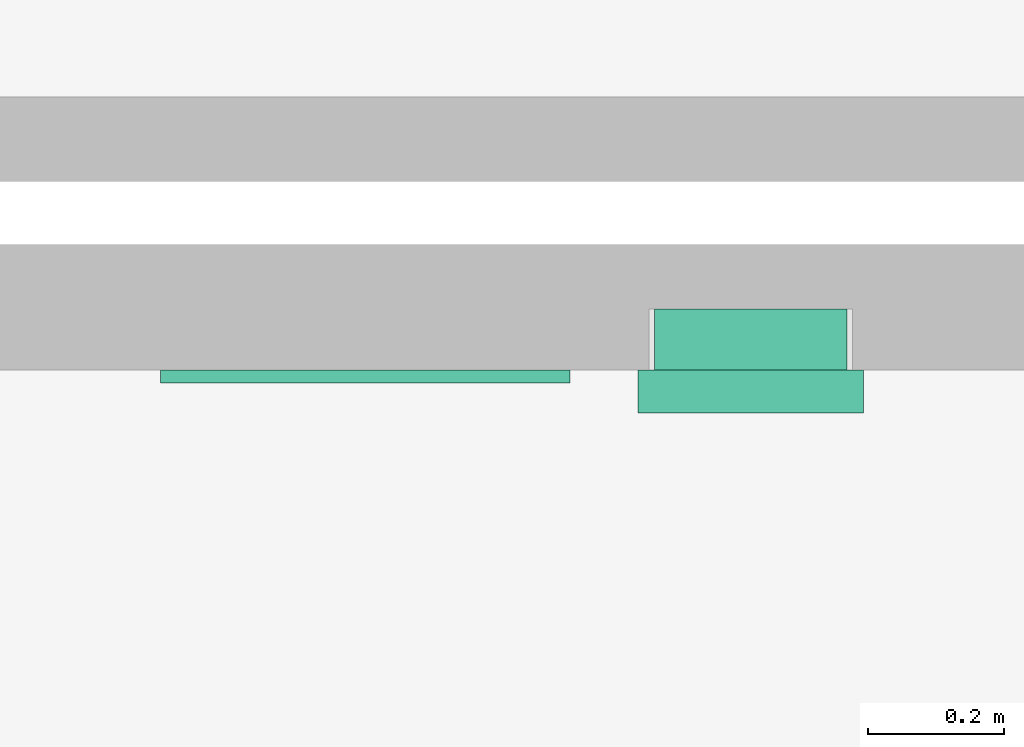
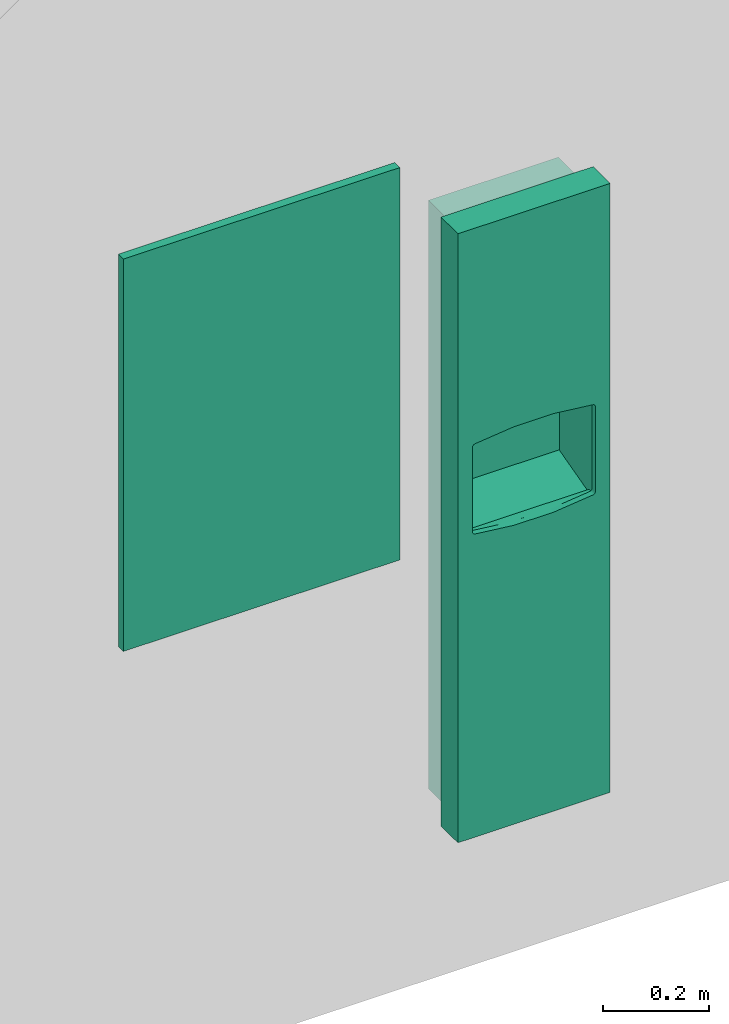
# One storey, part 60 of 87: 2 flow terminals.
"""IFC2X3 building model written with IfcOpenShell, lengths in metres."""

from ifc_helpers import new_model, entity, si_unit, converted_unit, frame, origin, origin_2d_with_axis, place, context, project, spatial, rectangle, extrude, face_set, surface_model, source, transform, mapped, type_object, type_shapes, element, save


model = new_model("IFC2X3")

# Units and contexts
model_context = context("Model", 3, precision=1e-09, world=origin())
plan_context = context("Plan", 3, precision=1e-09, world=origin())
ifc_project = project(units=[si_unit("LENGTHUNIT", "METRE"), si_unit("AREAUNIT", "SQUARE_METRE"), si_unit("VOLUMEUNIT", "CUBIC_METRE"), converted_unit("PLANEANGLEUNIT", "DEGREE", entity("IfcRatioMeasure", 0.01745329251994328), si_unit("PLANEANGLEUNIT", "RADIAN"), dimensions=[0, 0, 0, 0, 0, 0, 0]), si_unit("TIMEUNIT", "SECOND")], contexts=[model_context, plan_context])

# Site, building, storey, space
site_placement = place(None, origin())
site = spatial("IfcSite", under=ifc_project, at=site_placement, Name="Default", CompositionType="ELEMENT")
building_placement = place(site_placement, origin())
building = spatial("IfcBuilding", under=site, at=building_placement, CompositionType="ELEMENT")
storey_placement = place(building_placement, origin())
storey = spatial("IfcBuildingStorey", under=building, at=storey_placement, Name="First Floor", CompositionType="ELEMENT", Elevation=-3.531500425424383e-13)
space_placement = place(storey_placement, origin())
space = spatial("IfcSpace", under=storey, at=space_placement, Name="1D26", CompositionType="ELEMENT", InteriorOrExteriorSpace="INTERNAL")

# Flow terminals
sanitary_terminal_type_1 = type_object("IfcSanitaryTerminalType", Name="Mirror 600mm x 900mm", PredefinedType="NOTDEFINED")
shared_shape_1 = source(origin(), model_context, "Body", "SweptSolid", [
    extrude(rectangle(XDim=0.01905, YDim=0.5999999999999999, at=origin_2d_with_axis()), frame((0.02447030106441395, 0.101525, 1.0), z_axis=(0.0, 0.0, 1.0), x_axis=(0.0, -1.0, 0.0)), (0.0, 0.0, 1.0), 0.8999999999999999),
])
type_shapes(sanitary_terminal_type_1, [shared_shape_1])
flow_terminal_1_placement = place(space_placement, frame((-41.73972969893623, 24.35199999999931, 0.0), z_axis=(0.0, 0.0, 1.0), x_axis=(-1.0, 0.0, 0.0)))
element("IfcFlowTerminal", 1, at=flow_terminal_1_placement, inside=space, type_object=sanitary_terminal_type_1, Name="M_Mirror:Mirror 600mm x 900mm:Mirror 600mm x 900mm", ObjectType="Mirror 600mm x 900mm", context=model_context, shape_type="MappedRepresentation", body=[
    mapped(shared_shape_1, transform((0.0, 0.0, 0.0), scale=1.0)),
])
sanitary_terminal_type_2 = type_object("IfcSanitaryTerminalType", Name="Semi-Recessed", PredefinedType="NOTDEFINED")
shared_shape_2 = source(origin(), model_context, "Body", "SurfaceModel", [
    surface_model("IfcFaceBasedSurfaceModel", [(0.3047999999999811, 1.371600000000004, 0.006350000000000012), (0.02539999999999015, 1.371600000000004, 0.006350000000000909), (0.02539999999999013, 0.02540000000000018, 0.006350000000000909), (0.3047999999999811, 0.02540000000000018, 0.006350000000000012), (0.3047999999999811, 1.371600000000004, 0.0), (0.02539999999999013, 1.371600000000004, 0.0), (0.02539999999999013, 0.02540000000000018, 0.0), (0.3047999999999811, 0.02540000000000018, 0.0), (0.3047999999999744, 0.8683625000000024, 0.0314087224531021), (0.304799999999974, 0.8683625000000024, 0.0), (0.304799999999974, 1.371600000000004, 0.0), (0.3047999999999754, 1.371600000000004, 0.1396999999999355), (0.3047999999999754, 0.9274310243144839, 0.139699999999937), (0.3047999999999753, 0.9028355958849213, 0.1191121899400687), (0.304799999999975, 0.8840898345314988, 0.09308548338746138), (0.3047999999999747, 0.8723562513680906, 0.06323391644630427), (0.02539999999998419, 0.8683625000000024, 0.03140872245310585), (0.02539999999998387, 0.8683625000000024, 0.0), (0.02539999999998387, 1.371600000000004, 0.0), (0.02539999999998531, 1.371600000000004, 0.1396999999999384), (0.02539999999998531, 0.9274310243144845, 0.1396999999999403), (0.02539999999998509, 0.9028355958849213, 0.1191121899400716), (0.02539999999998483, 0.8840898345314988, 0.09308548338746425), (0.02539999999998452, 0.8723562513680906, 0.06323391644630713), (0.1650999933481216, 0.8971245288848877, 0.1125374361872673), (0.244423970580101, 0.8850007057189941, 0.0947267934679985), (0.3048000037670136, 0.8934627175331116, 0.1060988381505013), (0.225727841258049, 0.8897196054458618, 0.1024402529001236), (0.1240624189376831, 0.8936511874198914, 0.1080563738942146), (0.1443802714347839, 0.89626145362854, 0.1114614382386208), (0.02539999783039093, 0.8934627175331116, 0.1060988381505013), (0.2975995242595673, 0.8728225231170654, 0.06500939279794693), (0.2961554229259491, 0.8724397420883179, 0.06352298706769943), (0.08576729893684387, 0.8849983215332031, 0.09472260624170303), (0.05923719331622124, 0.8781034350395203, 0.0805450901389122), (0.06810294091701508, 0.8800443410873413, 0.08500713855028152), (0.02539999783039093, 0.8811564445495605, 0.08562259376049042), (0.03954862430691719, 0.8766331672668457, 0.07681932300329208), (0.04958875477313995, 0.8769928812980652, 0.07776296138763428), (0.02539999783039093, 0.8782230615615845, 0.07815969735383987), (0.03264534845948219, 0.875198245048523, 0.07281118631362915), (0.02539999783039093, 0.8767563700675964, 0.0744282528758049), (0.02539999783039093, 0.87602299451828, 0.07256253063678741), (0.2946777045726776, 0.8762261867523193, 0.07572414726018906), (0.3048000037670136, 0.8767563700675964, 0.0744282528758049), (0.3048000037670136, 0.8774896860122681, 0.07629397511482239), (0.2906513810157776, 0.8717893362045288, 0.0609215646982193), (0.3048000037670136, 0.871357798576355, 0.05527761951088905), (0.3048000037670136, 0.8718570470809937, 0.05925576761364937), (0.02539999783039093, 0.874556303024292, 0.06883108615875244), (0.03170676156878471, 0.8735430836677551, 0.0675705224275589), (0.03171554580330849, 0.8739543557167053, 0.06892137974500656), (0.104461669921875, 0.889717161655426, 0.1024366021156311), (0.02539999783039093, 0.8752896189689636, 0.07069680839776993), (0.03172433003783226, 0.8743656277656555, 0.07027223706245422), (0.03218483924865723, 0.8747819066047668, 0.07154171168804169), (0.185808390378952, 0.8962624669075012, 0.1114626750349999), (0.3048000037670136, 0.8703593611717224, 0.04732131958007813), (0.2280749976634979, 0.8709259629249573, 0.05697767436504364), (0.2061262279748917, 0.8936530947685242, 0.1080589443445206), (0.3048000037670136, 0.8752896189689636, 0.07069680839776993), (0.297547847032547, 0.8752022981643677, 0.07282306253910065), (0.2980738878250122, 0.8745774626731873, 0.0708826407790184), (0.2985999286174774, 0.8739525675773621, 0.06894221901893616), (0.3048000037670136, 0.874556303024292, 0.06883108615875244), (0.2709419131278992, 0.8781068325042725, 0.08055329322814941), (0.3048000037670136, 0.8811564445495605, 0.08562259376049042), (0.2620970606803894, 0.8800443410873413, 0.08500713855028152), (0.2805894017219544, 0.8769944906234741, 0.07776710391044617), (0.3048000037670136, 0.8782230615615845, 0.07815969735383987), (0.03435983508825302, 0.8722586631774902, 0.06284872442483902), (0.02539999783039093, 0.872106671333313, 0.06124484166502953), (0.0367727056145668, 0.8719081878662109, 0.06142202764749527), (0.2906513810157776, 0.8766331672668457, 0.07681932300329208), (0.02539999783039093, 0.8718570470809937, 0.05925576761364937), (0.3048000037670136, 0.8738229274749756, 0.06696536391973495), (0.2980997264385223, 0.8733875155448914, 0.06697580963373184), (0.3048000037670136, 0.872106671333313, 0.06124484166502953), (0.2947112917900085, 0.8720570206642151, 0.06203658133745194), (0.02539999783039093, 0.8738229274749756, 0.06696536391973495), (0.3048000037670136, 0.873089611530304, 0.06509964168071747), (0.02539999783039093, 0.8774896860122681, 0.07629397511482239), (0.03438528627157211, 0.8759323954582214, 0.07491400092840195), (0.03677724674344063, 0.8764464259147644, 0.07632055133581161), (0.03261014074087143, 0.8728178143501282, 0.0649920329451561), (0.02539999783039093, 0.8703593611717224, 0.04732131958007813), (0.1650999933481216, 0.8683624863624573, 0.03140872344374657), (0.03954862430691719, 0.8717893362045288, 0.0609215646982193), (0.1021250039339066, 0.8709259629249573, 0.05697767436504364), (0.02539999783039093, 0.871357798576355, 0.05527761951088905), (0.02539999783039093, 0.873089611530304, 0.06509964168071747), (0.2961127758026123, 0.8757142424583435, 0.07427360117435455), (0.3048000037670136, 0.87602299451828, 0.07256253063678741), (0.1650999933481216, 0.8701865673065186, 0.05300865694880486), (0.03954862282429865, 0.9617593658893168, 0.06092156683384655), (0.1650999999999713, 0.9617593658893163, 0.05300865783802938), (0.2906513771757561, 0.9617593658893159, 0.06092156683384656), (0.2927086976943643, 0.9617593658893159, 0.06119241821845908), (0.2946258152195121, 0.9617593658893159, 0.06198651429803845), (0.2962720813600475, 0.9617593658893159, 0.06324973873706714), (0.2975353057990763, 0.9617593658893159, 0.06489600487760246), (0.2983294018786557, 0.9617593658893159, 0.06681312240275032), (0.2986002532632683, 0.9617593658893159, 0.06887044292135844), (0.2983294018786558, 0.9617593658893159, 0.07092776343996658), (0.2975353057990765, 0.9617593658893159, 0.0728448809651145), (0.2962720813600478, 0.9617593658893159, 0.07449114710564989), (0.2946258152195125, 0.9617593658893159, 0.07575437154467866), (0.2927086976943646, 0.9617593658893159, 0.07654846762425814), (0.2906513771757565, 0.9617593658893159, 0.07681931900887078), (0.2806776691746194, 0.9617593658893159, 0.07775040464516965), (0.2710486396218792, 0.9617593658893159, 0.0805114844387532), (0.2620970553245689, 0.9617593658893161, 0.0850071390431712), (0.2316919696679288, 0.9617593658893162, 0.1002429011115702), (0.1989754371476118, 0.9617593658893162, 0.1095287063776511), (0.1651000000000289, 0.9617593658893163, 0.1125374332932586), (0.1312245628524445, 0.9617593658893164, 0.109528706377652), (0.09850803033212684, 0.9617593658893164, 0.1002429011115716), (0.06810294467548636, 0.9617593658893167, 0.08500713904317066), (0.05915136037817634, 0.9617593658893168, 0.08051148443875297), (0.04952233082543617, 0.9617593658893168, 0.07775040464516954), (0.03954862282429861, 0.9617593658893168, 0.07681931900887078), (0.03749130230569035, 0.9617593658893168, 0.0765484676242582), (0.03557418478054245, 0.9617593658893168, 0.07575437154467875), (0.03392791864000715, 0.9617593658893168, 0.07449114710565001), (0.03266469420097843, 0.9617593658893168, 0.07284488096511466), (0.03187059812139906, 0.9617593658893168, 0.07092776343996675), (0.03159974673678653, 0.9617593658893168, 0.06887044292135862), (0.03187059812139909, 0.9617593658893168, 0.06681312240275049), (0.03266469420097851, 0.9617593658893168, 0.0648960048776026), (0.03392791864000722, 0.9617593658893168, 0.06324973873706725), (0.03557418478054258, 0.9617593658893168, 0.06198651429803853), (0.03749130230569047, 0.9617593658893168, 0.06119241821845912), (0.3302000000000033, 1.397000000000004, 0.1523999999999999), (0.0, 1.397000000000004, 0.152400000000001), (0.0, 0.0, 0.152400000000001), (0.3302000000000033, 0.0, 0.1523999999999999), (0.03175000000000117, 0.7016793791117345, 0.1524000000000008), (0.03175000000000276, 0.8960819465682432, 0.1524000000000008), (0.03192255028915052, 0.8975521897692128, 0.1524000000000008), (0.03243082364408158, 0.8989425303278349, 0.1524000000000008), (0.03324719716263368, 0.9001774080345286, 0.1524000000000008), (0.03432730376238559, 0.9011897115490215, 0.1524000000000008), (0.03561244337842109, 0.9019244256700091, 0.1524000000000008), (0.03703277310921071, 0.9023416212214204, 0.1524000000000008), (0.1222300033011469, 0.9119737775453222, 0.1524000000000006), (0.2079699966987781, 0.911973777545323, 0.1524000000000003), (0.2931672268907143, 0.902341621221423, 0.1524), (0.2945875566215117, 0.9019244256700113, 0.1524), (0.2958726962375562, 0.9011897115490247, 0.1524), (0.2969528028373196, 0.9001774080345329, 0.1524), (0.297769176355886, 0.8989425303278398, 0.1524), (0.2982774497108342, 0.8975521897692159, 0.1524), (0.2984500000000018, 0.8960819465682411, 0.1524), (0.2984500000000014, 0.7016793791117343, 0.1524), (0.2982774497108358, 0.7002091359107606, 0.1524), (0.2977691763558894, 0.6988187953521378, 0.1524), (0.2969528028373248, 0.697583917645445, 0.1524), (0.2958726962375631, 0.6965716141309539, 0.1524), (0.29458755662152, 0.6958369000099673, 0.1524), (0.2931672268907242, 0.6954197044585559, 0.1524), (0.2079699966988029, 0.6857875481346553, 0.1524000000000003), (0.1222300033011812, 0.6857875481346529, 0.1524000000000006), (0.03703277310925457, 0.6954197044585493, 0.1524000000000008), (0.03561244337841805, 0.6958369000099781, 0.1524000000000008), (0.0343273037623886, 0.6965716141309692, 0.1524000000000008), (0.03324719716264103, 0.6975839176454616, 0.1524000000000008), (0.03243082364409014, 0.698818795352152, 0.1524000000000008), (0.03192255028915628, 0.7002091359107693, 0.1524000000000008), (0.3063874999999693, 1.373187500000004, 0.0), (0.02381249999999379, 1.373187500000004, 0.0), (0.02381249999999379, 0.02381250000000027, 0.0), (0.3063874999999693, 0.02381250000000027, 0.0), (0.3047999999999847, 1.371600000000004, 0.0), (0.3047999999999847, 0.02540000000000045, 0.0), (0.02539999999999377, 0.02540000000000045, 0.0), (0.02539999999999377, 1.371600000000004, 0.0), (0.304799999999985, 1.371600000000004, 0.08889999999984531), (0.3047999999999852, 1.371600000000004, 0.1396999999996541), (0.3047999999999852, 0.02540000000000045, 0.1396999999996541), (0.304799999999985, 0.02540000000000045, 0.08889999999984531), (0.02539999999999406, 0.02540000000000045, 0.08889999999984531), (0.02539999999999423, 0.02540000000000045, 0.139699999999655), (0.02539999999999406, 1.371600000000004, 0.08889999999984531), (0.02539999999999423, 1.371600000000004, 0.139699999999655), (0.02381249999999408, 1.373187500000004, 0.08889999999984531), (0.3063874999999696, 1.373187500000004, 0.08889999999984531), (0.02381249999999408, 0.02381250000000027, 0.08889999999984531), (0.3063874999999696, 0.02381250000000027, 0.08889999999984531), (0.3302000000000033, 1.397000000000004, 0.08889999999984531), (0.0, 1.397000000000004, 0.08889999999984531), (0.0, 0.0, 0.08889999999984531), (0.3302000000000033, 0.0, 0.08889999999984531), (0.3302000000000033, 1.397000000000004, 0.1396999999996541), (0.0, 1.397000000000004, 0.1396999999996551), (0.0, 0.0, 0.1396999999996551), (0.3302000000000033, 0.0, 0.1396999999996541), (0.0317500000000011, 0.7016793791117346, 0.139699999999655), (0.03175000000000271, 0.8960819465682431, 0.139699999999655), (0.03192255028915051, 0.8975521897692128, 0.139699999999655), (0.03243082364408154, 0.8989425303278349, 0.139699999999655), (0.03324719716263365, 0.9001774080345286, 0.139699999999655), (0.03432730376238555, 0.9011897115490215, 0.139699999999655), (0.03561244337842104, 0.9019244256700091, 0.139699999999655), (0.03703277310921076, 0.9023416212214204, 0.139699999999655), (0.1222300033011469, 0.9119737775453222, 0.1396999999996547), (0.207969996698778, 0.911973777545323, 0.1396999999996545), (0.2931672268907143, 0.902341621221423, 0.1396999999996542), (0.2945875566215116, 0.9019244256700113, 0.1396999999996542), (0.2958726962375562, 0.9011897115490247, 0.1396999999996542), (0.2969528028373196, 0.9001774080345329, 0.1396999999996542), (0.2977691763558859, 0.8989425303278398, 0.1396999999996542), (0.2982774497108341, 0.8975521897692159, 0.1396999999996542), (0.2984500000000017, 0.8960819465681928, 0.1396999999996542), (0.2984500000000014, 0.7016793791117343, 0.1396999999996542), (0.2982774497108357, 0.7002091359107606, 0.1396999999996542), (0.2977691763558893, 0.6988187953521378, 0.1396999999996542), (0.2969528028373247, 0.697583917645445, 0.1396999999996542), (0.295872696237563, 0.6965716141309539, 0.1396999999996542), (0.29458755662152, 0.6958369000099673, 0.1396999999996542), (0.2931672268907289, 0.6954197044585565, 0.1396999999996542), (0.2079699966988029, 0.6857875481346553, 0.1396999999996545), (0.1222300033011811, 0.6857875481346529, 0.1396999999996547), (0.0370327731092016, 0.6954197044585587, 0.139699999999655), (0.03561244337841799, 0.6958369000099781, 0.139699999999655), (0.03432730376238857, 0.6965716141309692, 0.139699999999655), (0.03324719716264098, 0.6975839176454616, 0.139699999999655), (0.03243082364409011, 0.698818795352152, 0.139699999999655), (0.03192255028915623, 0.7002091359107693, 0.139699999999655), (0.02698749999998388, 0.6774923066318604, 0.1206361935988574), (0.02698749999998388, 0.6858000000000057, 0.1206361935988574), (0.02698749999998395, 0.6858000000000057, 0.1397000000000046), (0.02698749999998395, 0.0253999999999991, 0.1397000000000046), (0.02698749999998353, 0.0253999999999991, 0.007937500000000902), (0.02698749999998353, 0.7076898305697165, 0.007937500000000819), (0.3032124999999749, 0.6774923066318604, 0.1206361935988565), (0.3032124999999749, 0.6858000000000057, 0.1206361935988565), (0.3032124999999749, 0.6858000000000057, 0.1397000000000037), (0.3032124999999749, 0.0253999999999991, 0.1397000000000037), (0.3032124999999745, 0.0253999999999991, 0.007937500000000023), (0.3032124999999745, 0.7076898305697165, 0.007937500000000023)], [face_set([[[0, 1, 2, 3]], [[4, 5, 6, 7]], [[1, 0, 4, 5]], [[2, 6, 5, 1]], [[3, 7, 6, 2]], [[0, 3, 7, 4]]]), face_set([[[8, 9, 10, 11, 12, 13, 14, 15]], [[16, 17, 18, 19, 20, 21, 22, 23]], [[9, 8, 16, 17]], [[10, 18, 17, 9]], [[11, 19, 18, 10]], [[12, 11, 19, 20]], [[24, 20, 21]], [[25, 26, 27]], [[28, 29, 21]], [[28, 21, 30]], [[15, 31, 32]], [[22, 33, 30]], [[24, 21, 29]], [[34, 35, 36]], [[37, 38, 39]], [[40, 41, 42]], [[39, 38, 34]], [[22, 35, 33]], [[39, 34, 36]], [[43, 44, 45]], [[46, 47, 48]], [[49, 50, 51]], [[33, 52, 30]], [[53, 54, 55]], [[24, 56, 13]], [[57, 47, 58]], [[24, 13, 12]], [[13, 56, 59]], [[59, 27, 26]], [[60, 61, 62]], [[62, 63, 64]], [[24, 12, 20]], [[55, 42, 53]], [[65, 66, 67]], [[25, 67, 14]], [[25, 14, 26]], [[65, 68, 69]], [[66, 65, 69]], [[70, 71, 72]], [[69, 68, 73]], [[72, 71, 74]], [[26, 13, 59]], [[54, 53, 49]], [[64, 60, 62]], [[75, 63, 76]], [[46, 77, 78]], [[79, 50, 49]], [[80, 76, 31]], [[39, 81, 37]], [[41, 82, 81]], [[49, 51, 54]], [[81, 82, 83]], [[40, 82, 41]], [[70, 84, 23]], [[84, 50, 79]], [[85, 16, 86]], [[28, 30, 52]], [[70, 23, 71]], [[87, 72, 74]], [[85, 88, 89]], [[87, 89, 88]], [[74, 89, 87]], [[84, 90, 23]], [[58, 47, 46]], [[35, 22, 36]], [[63, 75, 64]], [[91, 61, 92]], [[45, 73, 43]], [[80, 75, 76]], [[61, 60, 92]], [[15, 32, 78]], [[45, 69, 73]], [[92, 44, 91]], [[66, 14, 67]], [[84, 79, 90]], [[85, 93, 88]], [[86, 57, 93]], [[31, 15, 80]], [[77, 15, 78]], [[42, 55, 40]], [[58, 93, 57]], [[77, 46, 48]], [[8, 57, 86]], [[37, 81, 83]], [[44, 43, 91]], [[85, 86, 93]], [[94, 95, 96, 97, 98, 99, 100, 101, 102, 103, 104, 105, 106, 107, 108, 109, 110, 111, 112, 113, 114, 115, 116, 117, 118, 119, 120, 121, 122, 123, 124, 125, 126, 127, 128, 129, 130, 131]], [[95, 94, 87, 88, 93]], [[96, 95, 93, 58, 46]], [[46, 96, 97]], [[78, 98, 99]], [[97, 98, 78]], [[99, 100, 31]], [[46, 97, 78]], [[63, 31, 101]], [[31, 78, 99]], [[63, 101, 102]], [[101, 31, 100]], [[61, 104, 105]], [[43, 106, 107]], [[105, 106, 43]], [[73, 107, 108]], [[63, 103, 61]], [[103, 63, 102]], [[61, 103, 104]], [[61, 105, 43]], [[107, 73, 43]], [[108, 68, 73]], [[68, 108, 109]], [[109, 65, 68]], [[110, 67, 65]], [[67, 110, 111]], [[109, 110, 65]], [[111, 112, 25]], [[25, 67, 111]], [[27, 25, 112]], [[112, 59, 27]], [[113, 114, 56]], [[56, 59, 113]], [[24, 56, 114]], [[113, 59, 112]], [[114, 115, 29]], [[29, 24, 114]], [[28, 29, 115]], [[115, 116, 28]], [[116, 117, 33]], [[33, 52, 116]], [[35, 33, 117]], [[116, 52, 28]], [[118, 34, 35]], [[35, 117, 118]], [[118, 119, 34]], [[120, 37, 38]], [[38, 119, 120]], [[34, 119, 38]], [[37, 120, 121]], [[82, 122, 123]], [[121, 122, 83]], [[123, 124, 40]], [[37, 121, 83]], [[83, 122, 82]], [[40, 125, 54]], [[40, 82, 123]], [[54, 125, 126]], [[40, 124, 125]], [[84, 127, 128]], [[129, 84, 128]], [[72, 130, 131]], [[129, 130, 70]], [[87, 131, 94]], [[127, 50, 126]], [[127, 84, 50]], [[126, 50, 54]], [[70, 84, 129]], [[130, 72, 70]], [[131, 87, 72]]]), face_set([[[132, 133, 134, 135], [136, 137, 138, 139, 140, 141, 142, 143, 144, 145, 146, 147, 148, 149, 150, 151, 152, 153, 154, 155, 156, 157, 158, 159, 160, 161, 162, 163, 164, 165, 166, 167]], [[168, 169, 170, 171], [172, 173, 174, 175]], [[172, 176, 177, 178, 179, 173]], [[173, 174, 180, 181, 178, 179]], [[174, 175, 182, 183, 181, 180]], [[175, 182, 183, 177, 176, 172]], [[168, 169, 184, 185]], [[169, 184, 186, 170]], [[170, 186, 187, 171]], [[171, 168, 185, 187]], [[188, 189, 190, 191], [185, 187, 186, 184]], [[133, 132, 192, 188, 189, 193]], [[134, 133, 193, 189, 190, 194]], [[135, 134, 194, 190, 191, 195]], [[132, 135, 195, 191, 188, 192]], [[177, 183, 181, 178], [196, 197, 198, 199, 200, 201, 202, 203, 204, 205, 206, 207, 208, 209, 210, 211, 212, 213, 214, 215, 216, 217, 218, 219, 220, 221, 222, 223, 224, 225, 226, 227]], [[137, 136, 196, 197]], [[198, 197, 137, 138]], [[199, 198, 138, 139]], [[139, 140, 200, 199]], [[202, 201, 141, 142]], [[203, 202, 142, 143]], [[140, 141, 201, 200]], [[203, 143, 144, 204]], [[145, 205, 204, 144]], [[205, 145, 146, 206]], [[207, 206, 146, 147]], [[208, 207, 147, 148]], [[148, 149, 209, 208]], [[212, 211, 151, 152]], [[211, 210, 150, 151]], [[149, 150, 210, 209]], [[153, 213, 212, 152]], [[214, 213, 153, 154]], [[215, 214, 154, 155]], [[155, 156, 216, 215]], [[218, 217, 157, 158]], [[219, 218, 158, 159]], [[156, 157, 217, 216]], [[219, 159, 160, 220]], [[161, 221, 220, 160]], [[221, 161, 162, 222]], [[223, 222, 162, 163]], [[224, 223, 163, 164]], [[164, 165, 225, 224]], [[227, 226, 166, 167]], [[196, 227, 167, 136]], [[165, 166, 226, 225]]]), face_set([[[228, 229, 230, 231, 232, 233]], [[234, 235, 236, 237, 238, 239]], [[233, 228, 234, 239]], [[232, 238, 239, 233]], [[231, 237, 238, 232]], [[230, 231, 237, 236]], [[229, 230, 236, 235]], [[228, 234, 235, 229]]])]),
])
type_shapes(sanitary_terminal_type_2, [shared_shape_2])
flow_terminal_2_placement = place(space_placement, frame((-41.36420000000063, 24.34889999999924, 0.3428999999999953), z_axis=(0.0, -1.0, 0.0), x_axis=(1.0, 0.0, 0.0)))
element("IfcFlowTerminal", 2, at=flow_terminal_2_placement, inside=space, type_object=sanitary_terminal_type_2, Name="M_Towel Dispensers - receptical:Semi-Recessed:Semi-Recessed", ObjectType="Semi-Recessed", context=model_context, shape_type="MappedRepresentation", body=[
    mapped(shared_shape_2, transform((0.0, 0.0, 0.0), scale=1.0)),
])

save(model, "model.ifc")
